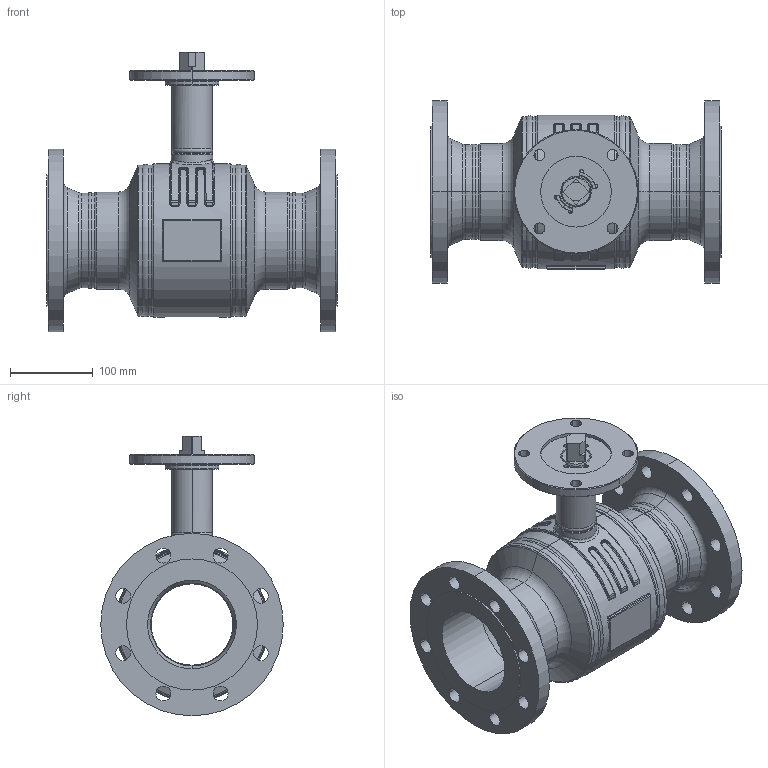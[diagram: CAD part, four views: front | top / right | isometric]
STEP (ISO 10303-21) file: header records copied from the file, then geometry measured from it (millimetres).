
FILE_DESCRIPTION((''),'2;1');
FILE_NAME('KHMO-F-V-H-100P016-VI_SW0001','2025-04-22T15:40:45',('jeitlers'),('KLINGER'),'CREO PARAMETRIC BY PTC INC, 2023014','CREO PARAMETRIC BY PTC INC, 2023014','');
FILE_SCHEMA(('CONFIG_CONTROL_DESIGN'));
Length unit declared in the file: millimetre
Products named in the file (1): KHMO-F-V-H-100P016-VI_SW0001
Bounding box: 350 x 220 x 337 mm (x, y, z)
Volume: 3349805 mm3; surface area: 770268.2 mm2
Topology: 2 solids, 2 shells, 596 faces, 1435 edges, 858 vertices
Faces by surface type: cylinder 230, torus 120, plane 108, cone 78, bspline 52, sphere 8
Entity records: 29638 total; most frequent: CARTESIAN_POINT 15596, DIRECTION 3123, ORIENTED_EDGE 2854, EDGE_CURVE 1427, AXIS2_PLACEMENT_3D 1326, VERTEX_POINT 858, CIRCLE 782, EDGE_LOOP 679
